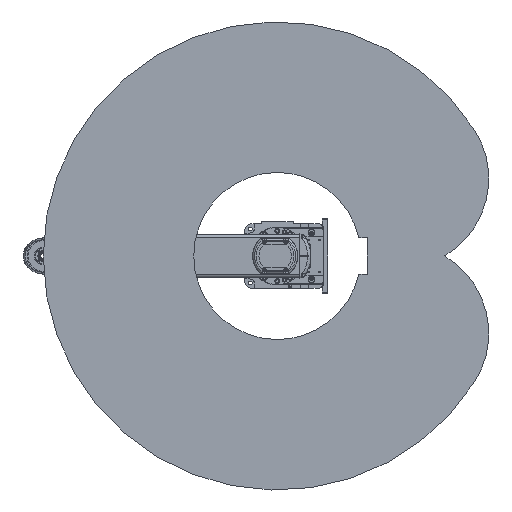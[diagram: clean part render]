
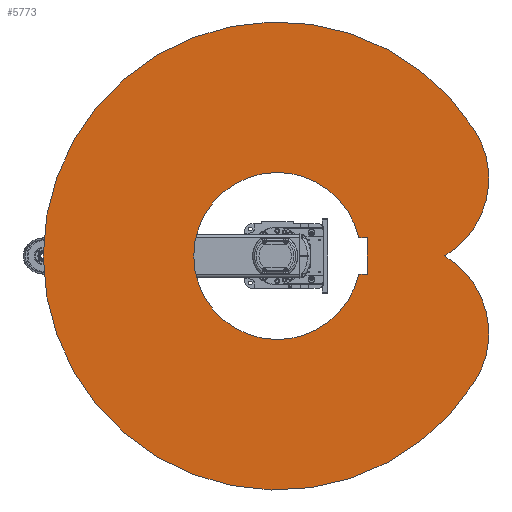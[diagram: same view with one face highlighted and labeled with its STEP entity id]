
A CAD part, front view. The second image highlights one B-rep face of the part: STEP entity #5773.
In plain terms, the highlighted planar face has unit normal (0, -1, 0).
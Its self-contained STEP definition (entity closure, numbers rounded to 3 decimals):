
#5773 = ADVANCED_FACE( '', ( #13995, #13996 ), #13997, .F. );
#13995 = FACE_OUTER_BOUND( '', #25675, .T. );
#13996 = FACE_BOUND( '', #25676, .T. );
#13997 = PLANE( '', #25677 );
#25675 = EDGE_LOOP( '', ( #42754, #42755, #42756 ) );
#25676 = EDGE_LOOP( '', ( #42757, #42758, #42759, #42760 ) );
#25677 = AXIS2_PLACEMENT_3D( '', #42761, #42762, #42763 );
#42754 = ORIENTED_EDGE( '', *, *, #62297, .F. );
#42755 = ORIENTED_EDGE( '', *, *, #65088, .F. );
#42756 = ORIENTED_EDGE( '', *, *, #65089, .F. );
#42757 = ORIENTED_EDGE( '', *, *, #65090, .T. );
#42758 = ORIENTED_EDGE( '', *, *, #63096, .T. );
#42759 = ORIENTED_EDGE( '', *, *, #63895, .T. );
#42760 = ORIENTED_EDGE( '', *, *, #62974, .T. );
#42761 = CARTESIAN_POINT( '', ( 107.46, 0., 168.678 ) );
#42762 = DIRECTION( '', ( 0., 1., 0. ) );
#42763 = DIRECTION( '', ( 0., 0., 1. ) );
#62297 = EDGE_CURVE( '', #74032, #74033, #74034, .T. );
#62974 = EDGE_CURVE( '', #75162, #75160, #75163, .T. );
#63096 = EDGE_CURVE( '', #75363, #75364, #75365, .T. );
#63895 = EDGE_CURVE( '', #75364, #75162, #76646, .T. );
#65088 = EDGE_CURVE( '', #78484, #74032, #78485, .T. );
#65089 = EDGE_CURVE( '', #74033, #78484, #78486, .T. );
#65090 = EDGE_CURVE( '', #75160, #75363, #78487, .T. );
#74032 = VERTEX_POINT( '', #91568 );
#74033 = VERTEX_POINT( '', #91569 );
#74034 = CIRCLE( '', #91570, 250. );
#75160 = VERTEX_POINT( '', #93658 );
#75162 = VERTEX_POINT( '', #93661 );
#75163 = CIRCLE( '', #93662, 232. );
#75363 = VERTEX_POINT( '', #93958 );
#75364 = VERTEX_POINT( '', #93959 );
#75365 = LINE( '', #93960, #93961 );
#76646 = LINE( '', #96387, #96388 );
#78484 = VERTEX_POINT( '', #99437 );
#78485 = CIRCLE( '', #99438, 250. );
#78486 = CIRCLE( '', #99439, 650. );
#78487 = LINE( '', #99440, #99441 );
#91568 = CARTESIAN_POINT( '', ( 0., 0., 465.065 ) );
#91569 = CARTESIAN_POINT( '', ( 349.245, 0., 548.204 ) );
#91570 = AXIS2_PLACEMENT_3D( '', #112779, #112780, #112781 );
#93658 = CARTESIAN_POINT( '', ( -50., 0., 226.548 ) );
#93661 = CARTESIAN_POINT( '', ( 50., 0., 226.548 ) );
#93662 = AXIS2_PLACEMENT_3D( '', #113657, #113658, #113659 );
#93958 = CARTESIAN_POINT( '', ( -50., 0., 250. ) );
#93959 = CARTESIAN_POINT( '', ( 50., 0., 250. ) );
#93960 = CARTESIAN_POINT( '', ( -50., 0., 250. ) );
#93961 = VECTOR( '', #113817, 1000. );
#96387 = CARTESIAN_POINT( '', ( 50., 0., 250. ) );
#96388 = VECTOR( '', #114826, 1000. );
#99437 = CARTESIAN_POINT( '', ( -349.245, 0., 548.204 ) );
#99438 = AXIS2_PLACEMENT_3D( '', #116330, #116331, #116332 );
#99439 = AXIS2_PLACEMENT_3D( '', #116333, #116334, #116335 );
#99440 = CARTESIAN_POINT( '', ( -50., 0., 0. ) );
#99441 = VECTOR( '', #116336, 1000. );
#112779 = CARTESIAN_POINT( '', ( 214.92, 0., 337.357 ) );
#112780 = DIRECTION( '', ( 0., 1., 0. ) );
#112781 = DIRECTION( '', ( 1., 0., 0. ) );
#113657 = CARTESIAN_POINT( '', ( 0., 0., 0. ) );
#113658 = DIRECTION( '', ( 0., 1., 0. ) );
#113659 = DIRECTION( '', ( 1., 0., 0. ) );
#113817 = DIRECTION( '', ( 1., 0., 0. ) );
#114826 = DIRECTION( '', ( 0., 0., -1. ) );
#116330 = CARTESIAN_POINT( '', ( -214.92, 0., 337.357 ) );
#116331 = DIRECTION( '', ( 0., 1., 0. ) );
#116332 = DIRECTION( '', ( 1., 0., 0. ) );
#116333 = CARTESIAN_POINT( '', ( 0., 0., 0. ) );
#116334 = DIRECTION( '', ( 0., 1., 0. ) );
#116335 = DIRECTION( '', ( 1., 0., 0. ) );
#116336 = DIRECTION( '', ( 0., 0., 1. ) );
